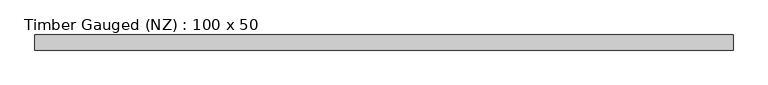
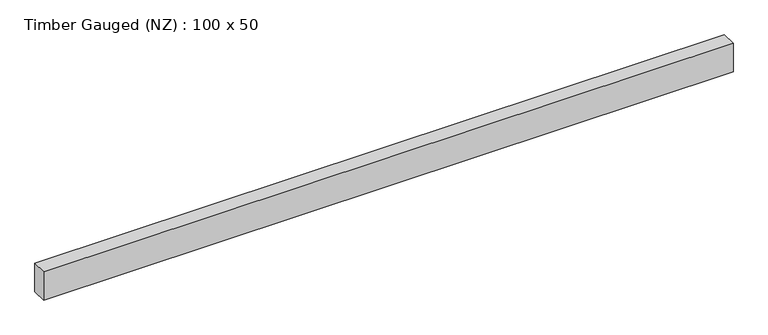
"""IFC4 building model written with IfcOpenShell, lengths in millimetres: beam geometry, Timber Gauged (NZ) : 100 x 50."""

from ifc_helpers import new_model, si_unit, frame, origin, place, context, project, spatial, polyline, outline, extrude, source, transform, mapped, element, save


def timber_gauged_nz_100_x_50_6be5a70a(model_context):
    return source(origin(), model_context, "Body", "SweptSolid", [
        extrude(outline(polyline([(1109.0, 23.5), (1109.0, -23.5), (-1062.0, -23.5), (-1062.0, 23.5), (1109.0, 23.5)])), frame((0.0, 0.0, -47.0), z_axis=(0.0, 0.0, 1.0), x_axis=(1.0, 0.0, 0.0)), (0.0, 0.0, 1.0), 94.0),
    ])


if __name__ == "__main__":
    model = new_model("IFC4")
    model_context = context("Model", 3, world=origin())
    ifc_project = project(units=[si_unit("LENGTHUNIT", "METRE", prefix="MILLI")], contexts=[model_context])
    site = spatial("IfcSite", under=ifc_project)
    building = spatial("IfcBuilding", under=site)
    placement = place(None, origin())
    timber_gauged_nz_100_x_50_shape = timber_gauged_nz_100_x_50_6be5a70a(model_context)
    element("IfcBeam", 1, ObjectType="Timber Gauged (NZ) : 100 x 50", at=placement, inside=building, context=model_context, shape_type="MappedRepresentation", body=[
        mapped(timber_gauged_nz_100_x_50_shape, transform((0.0, 0.0, 0.0), x_axis=(1.0, 0.0, 0.0), y_axis=(0.0, 1.0, 0.0), z_axis=(0.0, 0.0, 1.0))),
    ])
    save(model, "model.ifc")
